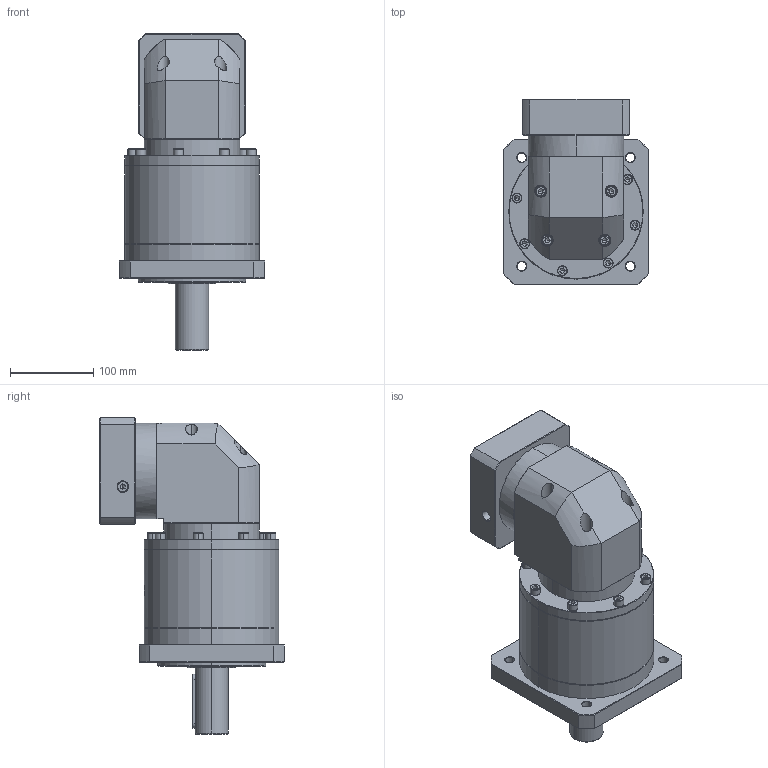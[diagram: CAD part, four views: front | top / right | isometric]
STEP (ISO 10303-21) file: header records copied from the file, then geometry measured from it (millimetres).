
FILE_DESCRIPTION (( 'STEP AP214' ), '1' );
FILE_NAME ('ZFR160A-D40-L3-P2-19-110-145-M8.step', '2023-09-03T09:41:20', ( '' ), ( '' ), 'SwSTEP 2.0', 'SolidWorks 2016', '' );
FILE_SCHEMA (( 'AUTOMOTIVE_DESIGN' ));
Length unit declared in the file: millimetre
Products named in the file (1): ZFR160A-D40-L3-P2-19-110-145-M8
Bounding box: 175 x 222.4 x 381.2 mm (x, y, z)
Volume: 5728094.3 mm3; surface area: 366615 mm2
Topology: 6 solids, 6 shells, 2472 faces, 6459 edges, 4114 vertices
Faces by surface type: plane 1146, cylinder 499, bspline 411, cone 370, torus 46
Entity records: 132936 total; most frequent: CARTESIAN_POINT 50376, ORIENTED_EDGE 12810, DIRECTION 9736, EDGE_CURVE 6405, VERTEX_POINT 4114, LINE 3442, VECTOR 3442, AXIS2_PLACEMENT_3D 3147
